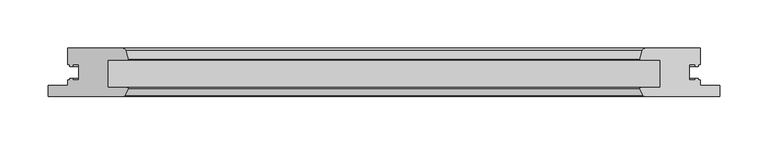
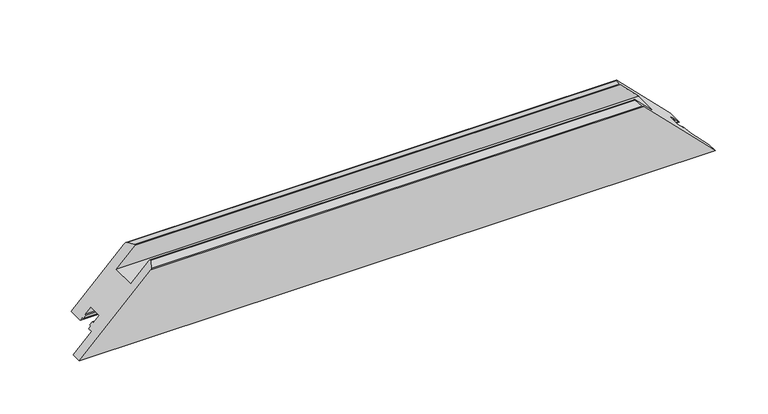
"""IFC4 building model written with IfcOpenShell, lengths in millimetres: proxy geometry, Weiku - Montante - Folha 02.2.01.017 : Weiku - Montante - Folha 02.2.01.017."""

from ifc_helpers import new_model, si_unit, frame, origin, place, context, project, spatial, ellipse_curve, source, transform, mapped, element, save
from ifc_brep_helpers import plane_surface, cylinder_surface, advanced_brep


def generic_models_d4e54d7b(model_context):
    return source(origin(), model_context, "Body", "AdvancedBrep", [
        advanced_brep(
        [(-326.75, 50.0, 20.0), (-269.7497332, 50.0, 77.0002668), (269.7497332, 50.0, 77.0002668), (326.75, 50.0, 20.0), (-346.75, 0.0, 0.0), (346.75, 0.0, 0.0), (268.7372264, 0.0, 78.0127736), (-268.7372264, 0.0, 78.0127736), (-326.75, 33.1, 20.0), (-324.55, 33.1, 22.2), (-324.55, 31.1, 22.2), (-321.75, 31.1, 25.0), (-321.75, 33.1, 25.0), (-315.25, 33.1, 31.5), (-315.25, 16.9, 31.5), (-321.75, 16.9, 25.0), (-321.75, 18.9, 25.0), (-324.55, 18.9, 22.2), (-324.55, 16.9, 22.2), (-326.75, 16.9, 20.0), (-326.75, 11.5, 20.0), (-346.75, 11.5, 0.0), (-267.8432657, 0.5518546, 78.9067343), (-264.3012796, 7.617411, 82.4487204), (-265.4634285, 9.5, 81.2865715), (-285.25, 9.5, 61.5), (-285.25, 37.5, 61.5), (-264.75, 37.5, 82.0), (-264.2670371, 38.1294095, 82.4829629), (-266.8519557, 47.7764571, 79.8980443), (266.8519557, 47.7764571, 79.8980443), (264.2670371, 38.1294095, 82.4829629), (264.75, 37.5, 82.0), (285.25, 37.5, 61.5), (285.25, 9.5, 61.5), (265.4634285, 9.5, 81.2865715), (264.3012796, 7.617411, 82.4487204), (267.8432657, 0.5518546, 78.9067343), (346.75, 11.5, 0.0), (326.75, 11.5, 20.0), (326.75, 16.9, 20.0), (324.55, 16.9, 22.2), (324.55, 18.9, 22.2), (321.75, 18.9, 25.0), (321.75, 16.9, 25.0), (315.25, 16.9, 31.5), (315.25, 33.1, 31.5), (321.75, 33.1, 25.0), (321.75, 31.1, 25.0), (324.55, 31.1, 22.2), (324.55, 33.1, 22.2), (326.75, 33.1, 20.0)],
        [
            (0, 1),
            (1, 2),
            (2, 3),
            (3, 0),
            (4, 5),
            (5, 6),
            (6, 7),
            (7, 4),
            (0, 8),
            (8, 9),
            (9, 10),
            (10, 11),
            (11, 12),
            (12, 13),
            (13, 14),
            (14, 15),
            (15, 16),
            (16, 17),
            (17, 18),
            (18, 19),
            (19, 20),
            (20, 21),
            (21, 4),
            (7, 22, ellipse_curve(frame((-268.7372264, 1.0, 78.0127736), z_axis=(-0.7071067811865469, 0.0, 0.7071067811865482), x_axis=(-0.707106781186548, 0.0, -0.7071067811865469)), 1.4142136, 1.0)),
            (22, 23),
            (23, 24, ellipse_curve(frame((-265.4634285, 8.2, 81.2865715), z_axis=(-0.7071067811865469, 0.0, 0.7071067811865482), x_axis=(-0.707106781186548, 0.0, -0.7071067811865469)), 1.8384776, 1.3)),
            (24, 25),
            (25, 26),
            (26, 27),
            (27, 28, ellipse_curve(frame((-264.75, 38.0, 82.0), z_axis=(-0.7071067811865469, 0.0, 0.7071067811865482), x_axis=(-0.707106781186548, 0.0, -0.7071067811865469)), 0.7071068, 0.5)),
            (28, 29),
            (29, 1, ellipse_curve(frame((-269.7497332, 47.0, 77.0002668), z_axis=(-0.7071067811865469, 0.0, 0.7071067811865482), x_axis=(-0.707106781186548, 0.0, -0.7071067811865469)), 4.2426407, 3.0)),
            (2, 30, ellipse_curve(frame((269.7497332, 47.0, 77.0002668), z_axis=(0.7071067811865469, 0.0, 0.7071067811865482), x_axis=(-0.707106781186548, 0.0, 0.7071067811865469)), 4.2426407, 3.0)),
            (30, 31),
            (31, 32, ellipse_curve(frame((264.75, 38.0, 82.0), z_axis=(0.7071067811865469, 0.0, 0.7071067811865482), x_axis=(-0.707106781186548, 0.0, 0.7071067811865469)), 0.7071068, 0.5)),
            (32, 33),
            (33, 34),
            (34, 35),
            (35, 36, ellipse_curve(frame((265.4634285, 8.2, 81.2865715), z_axis=(0.7071067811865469, 0.0, 0.7071067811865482), x_axis=(-0.707106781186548, 0.0, 0.7071067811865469)), 1.8384776, 1.3)),
            (36, 37),
            (37, 6, ellipse_curve(frame((268.7372264, 1.0, 78.0127736), z_axis=(0.7071067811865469, 0.0, 0.7071067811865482), x_axis=(-0.707106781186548, 0.0, 0.7071067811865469)), 1.4142136, 1.0)),
            (5, 38),
            (38, 39),
            (39, 40),
            (40, 41),
            (41, 42),
            (42, 43),
            (43, 44),
            (44, 45),
            (45, 46),
            (46, 47),
            (47, 48),
            (48, 49),
            (49, 50),
            (50, 51),
            (51, 3),
            (37, 22),
            (36, 23),
            (35, 24),
            (34, 25),
            (33, 26),
            (32, 27),
            (31, 28),
            (30, 29),
            (51, 8),
            (50, 9),
            (49, 10),
            (48, 11),
            (47, 12),
            (46, 13),
            (45, 14),
            (44, 15),
            (43, 16),
            (42, 17),
            (41, 18),
            (40, 19),
            (39, 20),
            (38, 21),
        ],
        [
            plane_surface(frame((-346.75, 50.0, 77.0002668), z_axis=(0.0, 1.0, 0.0), x_axis=(1.0, 0.0, 0.0))),
            plane_surface(frame((-346.75, 0.0, 0.0), z_axis=(0.0, -1.0, 0.0), x_axis=(1.0, 0.0, 0.0))),
            plane_surface(frame((-375.0342712, 0.0, -28.2842712), z_axis=(-0.7071067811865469, 0.0, 0.7071067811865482), x_axis=(0.0, 1.0, 0.0))),
            plane_surface(frame((256.75, 0.0, 90.0), z_axis=(0.7071067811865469, 0.0, 0.7071067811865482), x_axis=(0.0, 1.0, 0.0))),
            cylinder_surface(frame((-346.75, 1.0, 78.0127736), z_axis=(-1.0, 0.0, 0.0), x_axis=(0.0, 1.0, 0.0)), 1.0),
            plane_surface(frame((-346.75, 0.5518546, 78.9067343), z_axis=(0.0, -0.4481453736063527, 0.8939606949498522), x_axis=(1.0, 0.0, 0.0))),
            cylinder_surface(frame((-346.75, 8.2, 81.2865715), z_axis=(-1.0, 0.0, 0.0), x_axis=(0.0, 1.0, 0.0)), 1.3),
            plane_surface(frame((-346.75, 9.5, 81.2865715), z_axis=(0.0, 1.0, 0.0), x_axis=(1.0, 0.0, 0.0))),
            plane_surface(frame((-346.75, 9.5, 61.5), z_axis=(0.0, 0.0, 1.0), x_axis=(1.0, 0.0, 0.0))),
            plane_surface(frame((-346.75, 37.5, 61.5), z_axis=(0.0, -1.0, 0.0), x_axis=(1.0, 0.0, 0.0))),
            cylinder_surface(frame((-346.75, 38.0, 82.0), z_axis=(-1.0, 0.0, 0.0), x_axis=(0.0, 1.0, 0.0)), 0.5),
            plane_surface(frame((-346.75, 38.1294095, 82.4829629), z_axis=(0.0, 0.2588190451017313, 0.9659258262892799), x_axis=(1.0, 0.0, 0.0))),
            cylinder_surface(frame((-346.75, 47.0, 77.0002668), z_axis=(-1.0, 0.0, 0.0), x_axis=(0.0, 1.0, 0.0)), 3.0),
            plane_surface(frame((-346.75, 50.0, 20.0), z_axis=(0.0, 0.0, -1.0), x_axis=(1.0, 0.0, 0.0))),
            plane_surface(frame((-346.75, 33.1, 20.0), z_axis=(0.0, -1.0, 0.0), x_axis=(1.0, 0.0, 0.0))),
            plane_surface(frame((-346.75, 33.1, 22.2), z_axis=(0.0, 0.0, -1.0), x_axis=(1.0, 0.0, 0.0))),
            plane_surface(frame((-346.75, 31.1, 22.2), z_axis=(0.0, -1.0, 0.0), x_axis=(1.0, 0.0, 0.0))),
            plane_surface(frame((-346.75, 31.1, 25.0), z_axis=(0.0, 0.0, 1.0), x_axis=(1.0, 0.0, 0.0))),
            plane_surface(frame((-346.75, 33.1, 25.0), z_axis=(0.0, -1.0, 0.0), x_axis=(1.0, 0.0, 0.0))),
            plane_surface(frame((-346.75, 33.1, 31.5), z_axis=(0.0, 0.0, -1.0), x_axis=(1.0, 0.0, 0.0))),
            plane_surface(frame((-346.75, 16.9, 31.5), z_axis=(0.0, 1.0, 0.0), x_axis=(1.0, 0.0, 0.0))),
            plane_surface(frame((-346.75, 16.9, 25.0), z_axis=(0.0, 0.0, 1.0), x_axis=(1.0, 0.0, 0.0))),
            plane_surface(frame((-346.75, 18.9, 25.0), z_axis=(0.0, 1.0, 0.0), x_axis=(1.0, 0.0, 0.0))),
            plane_surface(frame((-346.75, 18.9, 22.2), z_axis=(0.0, 0.0, -1.0), x_axis=(1.0, 0.0, 0.0))),
            plane_surface(frame((-346.75, 16.9, 22.2), z_axis=(0.0, 1.0, 0.0), x_axis=(1.0, 0.0, 0.0))),
            plane_surface(frame((-346.75, 16.9, 20.0), z_axis=(0.0, 0.0, -1.0), x_axis=(1.0, 0.0, 0.0))),
            plane_surface(frame((-346.75, 11.5, 20.0), z_axis=(0.0, 1.0, 0.0), x_axis=(1.0, 0.0, 0.0))),
            plane_surface(frame((-346.75, 11.5, 0.0), z_axis=(0.0, 0.0, -1.0), x_axis=(1.0, 0.0, 0.0))),
        ],
        [
            (0, [[1, 2, 3, 4]]),
            (1, [[5, 6, 7, 8]]),
            (2, [[-1, 9, 10, 11, 12, 13, 14, 15, 16, 17, 18, 19, 20, 21, 22, 23, -8, 24, 25, 26, 27, 28, 29, 30, 31, 32]]),
            (3, [[-3, 33, 34, 35, 36, 37, 38, 39, 40, 41, -6, 42, 43, 44, 45, 46, 47, 48, 49, 50, 51, 52, 53, 54, 55, 56]]),
            (4, [[-24, -7, -41, 57]]),
            (5, [[-25, -57, -40, 58]]),
            (6, [[-26, -58, -39, 59]]),
            (7, [[-27, -59, -38, 60]]),
            (8, [[-28, -60, -37, 61]]),
            (9, [[-29, -61, -36, 62]]),
            (10, [[-30, -62, -35, 63]]),
            (11, [[-31, -63, -34, 64]]),
            (12, [[-32, -64, -33, -2]]),
            (13, [[-9, -4, -56, 65]]),
            (14, [[-10, -65, -55, 66]]),
            (15, [[-11, -66, -54, 67]]),
            (16, [[-12, -67, -53, 68]]),
            (17, [[-13, -68, -52, 69]]),
            (18, [[-14, -69, -51, 70]]),
            (19, [[-15, -70, -50, 71]]),
            (20, [[-16, -71, -49, 72]]),
            (21, [[-17, -72, -48, 73]]),
            (22, [[-18, -73, -47, 74]]),
            (23, [[-19, -74, -46, 75]]),
            (24, [[-20, -75, -45, 76]]),
            (25, [[-21, -76, -44, 77]]),
            (26, [[78, -22, -77, -43]]),
            (27, [[-5, -23, -78, -42]]),
        ],
    ),
    ])


if __name__ == "__main__":
    model = new_model("IFC4")
    model_context = context("Model", 3, world=origin())
    ifc_project = project(units=[si_unit("LENGTHUNIT", "METRE", prefix="MILLI")], contexts=[model_context])
    site = spatial("IfcSite", under=ifc_project)
    building = spatial("IfcBuilding", under=site)
    placement = place(None, origin())
    generic_models_shape = generic_models_d4e54d7b(model_context)
    element("IfcBuildingElementProxy", 1, Name="Weiku - Montante - Folha 02.2.01.017 : Weiku - Montante - Folha 02.2.01.017", ObjectType="Weiku - Montante - Folha 02.2.01.017 : Weiku - Montante - Folha 02.2.01.017", at=placement, inside=building, context=model_context, shape_type="MappedRepresentation", body=[
        mapped(generic_models_shape, transform((0.0, 0.0, 0.0), x_axis=(1.0, 0.0, 0.0), y_axis=(0.0, 1.0, 0.0), z_axis=(0.0, 0.0, 1.0))),
    ])
    save(model, "model.ifc")
